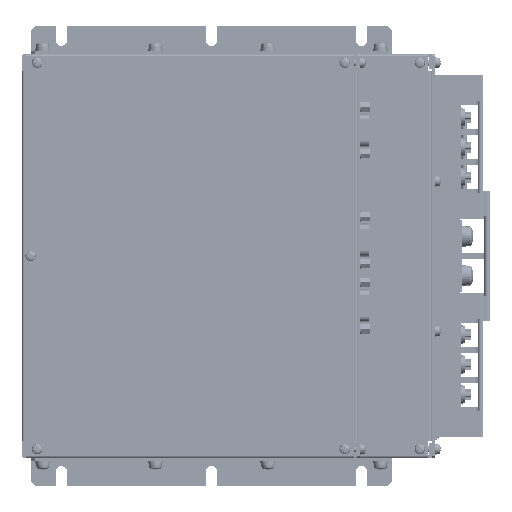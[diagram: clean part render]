
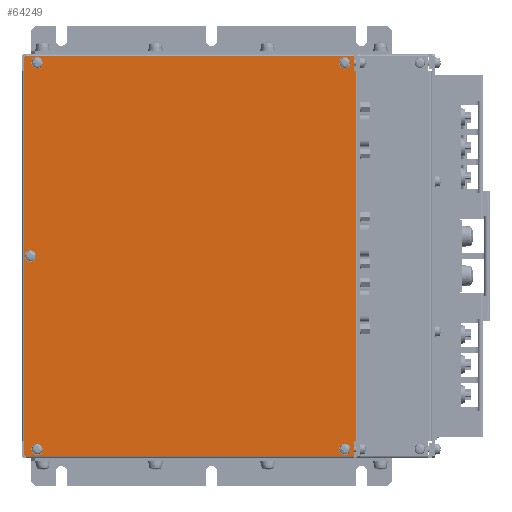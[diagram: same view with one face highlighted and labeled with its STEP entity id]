
A CAD part, left-side view. The second image highlights one B-rep face of the part: STEP entity #64249.
In plain terms, the highlighted planar face has unit normal (-1, 0, 0).
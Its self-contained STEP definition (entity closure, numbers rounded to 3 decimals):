
#64062=CARTESIAN_POINT('',(-95.,0.,0.));
#64063=DIRECTION('',(-1.,0.,0.));
#64064=DIRECTION('',(0.,-1.,0.));
#64065=AXIS2_PLACEMENT_3D('',#64062,#64063,#64064);
#64066=PLANE('',#64065);
#64067=CARTESIAN_POINT('',(-95.,-170.25,103.));
#64068=VERTEX_POINT('',#64067);
#64069=CARTESIAN_POINT('',(-95.,-173.75,103.));
#64070=VERTEX_POINT('',#64069);
#64071=CARTESIAN_POINT('',(-95.,-172.,103.));
#64072=DIRECTION('',(-1.,0.,0.));
#64073=DIRECTION('',(0.,-1.,0.));
#64074=AXIS2_PLACEMENT_3D('',#64071,#64072,#64073);
#64075=CIRCLE('',#64074,1.75);
#64076=EDGE_CURVE('',#64068,#64070,#64075,.T.);
#64077=ORIENTED_EDGE('',*,*,#64076,.F.);
#64078=CARTESIAN_POINT('',(-95.,-172.,103.));
#64079=DIRECTION('',(-1.,0.,0.));
#64080=DIRECTION('',(0.,-1.,0.));
#64081=AXIS2_PLACEMENT_3D('',#64078,#64079,#64080);
#64082=CIRCLE('',#64081,1.75);
#64083=EDGE_CURVE('',#64070,#64068,#64082,.T.);
#64084=ORIENTED_EDGE('',*,*,#64083,.F.);
#64085=EDGE_LOOP('',(#64077,#64084));
#64086=FACE_BOUND('',#64085,.T.);
#64087=CARTESIAN_POINT('',(-95.,-6.25,-103.));
#64088=VERTEX_POINT('',#64087);
#64089=CARTESIAN_POINT('',(-95.,-9.75,-103.));
#64090=VERTEX_POINT('',#64089);
#64091=CARTESIAN_POINT('',(-95.,-8.,-103.));
#64092=DIRECTION('',(-1.,0.,0.));
#64093=DIRECTION('',(0.,-1.,0.));
#64094=AXIS2_PLACEMENT_3D('',#64091,#64092,#64093);
#64095=CIRCLE('',#64094,1.75);
#64096=EDGE_CURVE('',#64088,#64090,#64095,.T.);
#64097=ORIENTED_EDGE('',*,*,#64096,.F.);
#64098=CARTESIAN_POINT('',(-95.,-8.,-103.));
#64099=DIRECTION('',(-1.,0.,0.));
#64100=DIRECTION('',(0.,-1.,0.));
#64101=AXIS2_PLACEMENT_3D('',#64098,#64099,#64100);
#64102=CIRCLE('',#64101,1.75);
#64103=EDGE_CURVE('',#64090,#64088,#64102,.T.);
#64104=ORIENTED_EDGE('',*,*,#64103,.F.);
#64105=EDGE_LOOP('',(#64097,#64104));
#64106=FACE_BOUND('',#64105,.T.);
#64107=CARTESIAN_POINT('',(-95.,-177.,-98.5));
#64108=VERTEX_POINT('',#64107);
#64109=CARTESIAN_POINT('',(-95.,-178.,-98.5));
#64110=VERTEX_POINT('',#64109);
#64111=CARTESIAN_POINT('',(-95.,-177.,-98.5));
#64112=DIRECTION('',(0.,-1.,0.));
#64113=VECTOR('',#64112,1.);
#64114=LINE('',#64111,#64113);
#64115=EDGE_CURVE('',#64108,#64110,#64114,.T.);
#64116=ORIENTED_EDGE('',*,*,#64115,.T.);
#64117=CARTESIAN_POINT('',(-95.,-178.,98.5));
#64118=VERTEX_POINT('',#64117);
#64119=CARTESIAN_POINT('',(-95.,-178.,-98.5));
#64120=DIRECTION('',(0.,0.,1.));
#64121=VECTOR('',#64120,197.);
#64122=LINE('',#64119,#64121);
#64123=EDGE_CURVE('',#64110,#64118,#64122,.T.);
#64124=ORIENTED_EDGE('',*,*,#64123,.T.);
#64125=CARTESIAN_POINT('',(-95.,-177.,98.5));
#64126=VERTEX_POINT('',#64125);
#64127=CARTESIAN_POINT('',(-95.,-178.,98.5));
#64128=DIRECTION('',(0.,1.,0.));
#64129=VECTOR('',#64128,1.);
#64130=LINE('',#64127,#64129);
#64131=EDGE_CURVE('',#64118,#64126,#64130,.T.);
#64132=ORIENTED_EDGE('',*,*,#64131,.T.);
#64133=CARTESIAN_POINT('',(-95.,-177.,106.5));
#64134=VERTEX_POINT('',#64133);
#64135=CARTESIAN_POINT('',(-95.,-177.,98.5));
#64136=DIRECTION('',(0.,0.,1.));
#64137=VECTOR('',#64136,8.);
#64138=LINE('',#64135,#64137);
#64139=EDGE_CURVE('',#64126,#64134,#64138,.T.);
#64140=ORIENTED_EDGE('',*,*,#64139,.T.);
#64141=CARTESIAN_POINT('',(-95.,-2.,106.5));
#64142=VERTEX_POINT('',#64141);
#64143=CARTESIAN_POINT('',(-95.,-177.,106.5));
#64144=DIRECTION('',(0.,1.,0.));
#64145=VECTOR('',#64144,175.);
#64146=LINE('',#64143,#64145);
#64147=EDGE_CURVE('',#64134,#64142,#64146,.T.);
#64148=ORIENTED_EDGE('',*,*,#64147,.T.);
#64149=CARTESIAN_POINT('',(-95.,-1.,105.5));
#64150=VERTEX_POINT('',#64149);
#64151=CARTESIAN_POINT('',(-95.,-2.,106.5));
#64152=DIRECTION('',(0.,0.707,-0.707));
#64153=VECTOR('',#64152,1.414);
#64154=LINE('',#64151,#64153);
#64155=EDGE_CURVE('',#64142,#64150,#64154,.T.);
#64156=ORIENTED_EDGE('',*,*,#64155,.T.);
#64157=CARTESIAN_POINT('',(-95.,-1.,-105.5));
#64158=VERTEX_POINT('',#64157);
#64159=CARTESIAN_POINT('',(-95.,-1.,105.5));
#64160=DIRECTION('',(0.,0.,-1.));
#64161=VECTOR('',#64160,211.);
#64162=LINE('',#64159,#64161);
#64163=EDGE_CURVE('',#64150,#64158,#64162,.T.);
#64164=ORIENTED_EDGE('',*,*,#64163,.T.);
#64165=CARTESIAN_POINT('',(-95.,-2.,-106.5));
#64166=VERTEX_POINT('',#64165);
#64167=CARTESIAN_POINT('',(-95.,-1.,-105.5));
#64168=DIRECTION('',(0.,-0.707,-0.707));
#64169=VECTOR('',#64168,1.414);
#64170=LINE('',#64167,#64169);
#64171=EDGE_CURVE('',#64158,#64166,#64170,.T.);
#64172=ORIENTED_EDGE('',*,*,#64171,.T.);
#64173=CARTESIAN_POINT('',(-95.,-177.,-106.5));
#64174=VERTEX_POINT('',#64173);
#64175=CARTESIAN_POINT('',(-95.,-2.,-106.5));
#64176=DIRECTION('',(0.,-1.,0.));
#64177=VECTOR('',#64176,175.);
#64178=LINE('',#64175,#64177);
#64179=EDGE_CURVE('',#64166,#64174,#64178,.T.);
#64180=ORIENTED_EDGE('',*,*,#64179,.T.);
#64181=CARTESIAN_POINT('',(-95.,-177.,-106.5));
#64182=DIRECTION('',(0.,0.,1.));
#64183=VECTOR('',#64182,8.);
#64184=LINE('',#64181,#64183);
#64185=EDGE_CURVE('',#64174,#64108,#64184,.T.);
#64186=ORIENTED_EDGE('',*,*,#64185,.T.);
#64187=EDGE_LOOP('',(#64116,#64124,#64132,#64140,#64148,#64156,#64164,#64172,#64180,#64186));
#64188=FACE_BOUND('',#64187,.T.);
#64189=CARTESIAN_POINT('',(-95.,-170.25,-103.));
#64190=VERTEX_POINT('',#64189);
#64191=CARTESIAN_POINT('',(-95.,-173.75,-103.));
#64192=VERTEX_POINT('',#64191);
#64193=CARTESIAN_POINT('',(-95.,-172.,-103.));
#64194=DIRECTION('',(-1.,0.,0.));
#64195=DIRECTION('',(0.,-1.,0.));
#64196=AXIS2_PLACEMENT_3D('',#64193,#64194,#64195);
#64197=CIRCLE('',#64196,1.75);
#64198=EDGE_CURVE('',#64190,#64192,#64197,.T.);
#64199=ORIENTED_EDGE('',*,*,#64198,.F.);
#64200=CARTESIAN_POINT('',(-95.,-172.,-103.));
#64201=DIRECTION('',(-1.,0.,0.));
#64202=DIRECTION('',(0.,-1.,0.));
#64203=AXIS2_PLACEMENT_3D('',#64200,#64201,#64202);
#64204=CIRCLE('',#64203,1.75);
#64205=EDGE_CURVE('',#64192,#64190,#64204,.T.);
#64206=ORIENTED_EDGE('',*,*,#64205,.F.);
#64207=EDGE_LOOP('',(#64199,#64206));
#64208=FACE_BOUND('',#64207,.T.);
#64209=CARTESIAN_POINT('',(-95.,-6.25,103.));
#64210=VERTEX_POINT('',#64209);
#64211=CARTESIAN_POINT('',(-95.,-9.75,103.));
#64212=VERTEX_POINT('',#64211);
#64213=CARTESIAN_POINT('',(-95.,-8.,103.));
#64214=DIRECTION('',(-1.,0.,0.));
#64215=DIRECTION('',(0.,-1.,0.));
#64216=AXIS2_PLACEMENT_3D('',#64213,#64214,#64215);
#64217=CIRCLE('',#64216,1.75);
#64218=EDGE_CURVE('',#64210,#64212,#64217,.T.);
#64219=ORIENTED_EDGE('',*,*,#64218,.F.);
#64220=CARTESIAN_POINT('',(-95.,-8.,103.));
#64221=DIRECTION('',(-1.,0.,0.));
#64222=DIRECTION('',(0.,-1.,0.));
#64223=AXIS2_PLACEMENT_3D('',#64220,#64221,#64222);
#64224=CIRCLE('',#64223,1.75);
#64225=EDGE_CURVE('',#64212,#64210,#64224,.T.);
#64226=ORIENTED_EDGE('',*,*,#64225,.F.);
#64227=EDGE_LOOP('',(#64219,#64226));
#64228=FACE_BOUND('',#64227,.T.);
#64229=CARTESIAN_POINT('',(-95.,-2.75,-0.));
#64230=VERTEX_POINT('',#64229);
#64231=CARTESIAN_POINT('',(-95.,-6.25,-0.));
#64232=VERTEX_POINT('',#64231);
#64233=CARTESIAN_POINT('',(-95.,-4.5,-0.));
#64234=DIRECTION('',(-1.,0.,0.));
#64235=DIRECTION('',(0.,-1.,0.));
#64236=AXIS2_PLACEMENT_3D('',#64233,#64234,#64235);
#64237=CIRCLE('',#64236,1.75);
#64238=EDGE_CURVE('',#64230,#64232,#64237,.T.);
#64239=ORIENTED_EDGE('',*,*,#64238,.F.);
#64240=CARTESIAN_POINT('',(-95.,-4.5,-0.));
#64241=DIRECTION('',(-1.,0.,0.));
#64242=DIRECTION('',(0.,-1.,0.));
#64243=AXIS2_PLACEMENT_3D('',#64240,#64241,#64242);
#64244=CIRCLE('',#64243,1.75);
#64245=EDGE_CURVE('',#64232,#64230,#64244,.T.);
#64246=ORIENTED_EDGE('',*,*,#64245,.F.);
#64247=EDGE_LOOP('',(#64239,#64246));
#64248=FACE_BOUND('',#64247,.T.);
#64249=ADVANCED_FACE('',(#64086,#64106,#64188,#64208,#64228,#64248),#64066,.T.);
